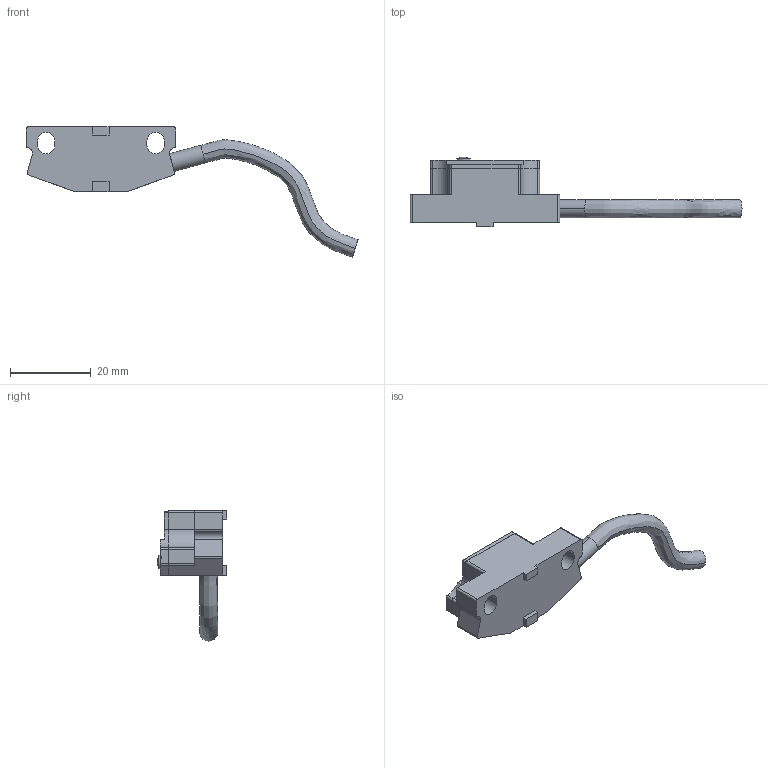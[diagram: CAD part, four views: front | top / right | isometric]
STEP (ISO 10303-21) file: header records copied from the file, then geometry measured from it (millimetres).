
FILE_DESCRIPTION (( 'STEP AP214' ), '1' );
FILE_NAME ('SP3x_tangencialni_R.STEP', '2026-09-23T12:40:13', ( '' ), ( '' ), 'SwSTEP 2.0', 'SolidWorks 2024', '' );
FILE_SCHEMA (( 'AUTOMOTIVE_DESIGN' ));
Length unit declared in the file: millimetre
Products named in the file (1): SP3x_tangencialni_R
Bounding box: 81.99 x 17.26 x 32.15 mm (x, y, z)
Volume: 7033 mm3; surface area: 3697.9 mm2
Topology: 1 solids, 6 shells, 181 faces, 487 edges, 317 vertices
Faces by surface type: cylinder 65, plane 56, cone 50, bspline 4, torus 4, sphere 2
Entity records: 8214 total; most frequent: CARTESIAN_POINT 2324, DIRECTION 997, ORIENTED_EDGE 966, EDGE_CURVE 483, AXIS2_PLACEMENT_3D 385, VERTEX_POINT 317, VECTOR 227, LINE 227
